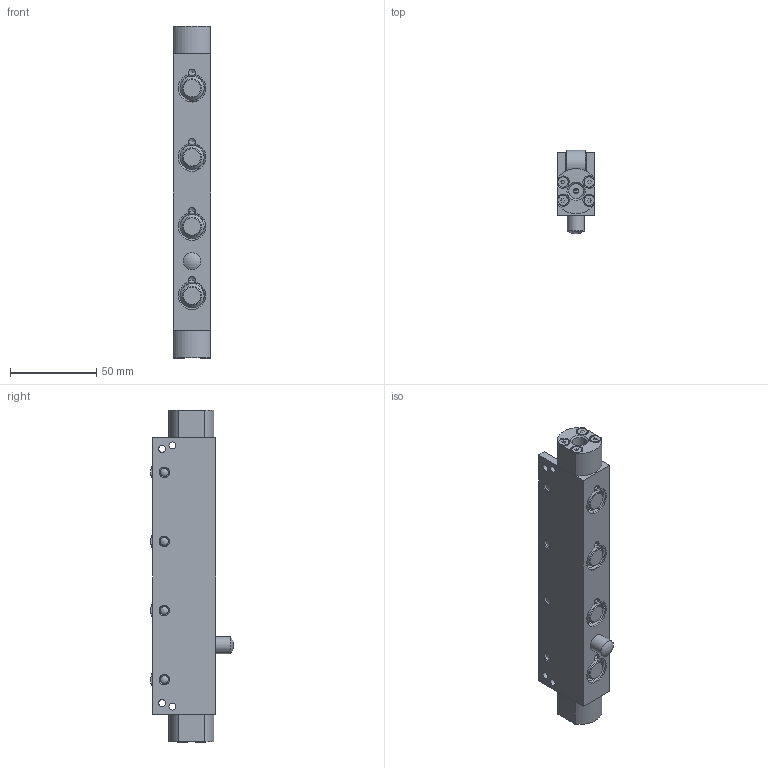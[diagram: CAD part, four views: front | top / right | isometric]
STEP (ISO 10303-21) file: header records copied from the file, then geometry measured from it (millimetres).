
FILE_DESCRIPTION(/* description */ (''),/* implementation_level */ '2;1');
FILE_NAME(/* name */ 'S:\EASCN Vault\Designs\Standard Part\DIE LIFTERS\EHR\EHR- 3D step\EHR22-C - 3D step complete serie\EHR22-04-C.stp',/* time_stamp */ '2019-09-06T11:25:05+08:00',/* author */ ('yue.yang'),/* organization */ (''),/* preprocessor_version */ 'ST-DEVELOPER v17',/* originating_system */ 'Autodesk Inventor 2019',/* authorisation */ '');
FILE_SCHEMA (('AUTOMOTIVE_DESIGN { 1 0 10303 214 3 1 1 }'));
Length unit declared in the file: millimetre
Products named in the file (1): EHR22-04-C_Shrinkwrap_1
Bounding box: 21.8 x 48.05 x 192 mm (x, y, z)
Volume: 112426.2 mm3; surface area: 46847.5 mm2
Topology: 1 solids, 1 shells, 385 faces, 1114 edges, 766 vertices
Faces by surface type: plane 142, cylinder 120, cone 70, torus 44, sphere 9
Full cylindrical faces by diameter (mm): 3 x10, 3.2 x8, 4 x8, 5 x16, 6 x13, 8.566 x2, 10 x3, 11 x4, 12.5 x8, 13.4 x4, 13.8 x4, 15.95 x8, 16 x12
Entity records: 13873 total; most frequent: CARTESIAN_POINT 2938, DIRECTION 2342, ORIENTED_EDGE 2204, EDGE_CURVE 1102, AXIS2_PLACEMENT_3D 998, VERTEX_POINT 766, CIRCLE 612, EDGE_LOOP 466
